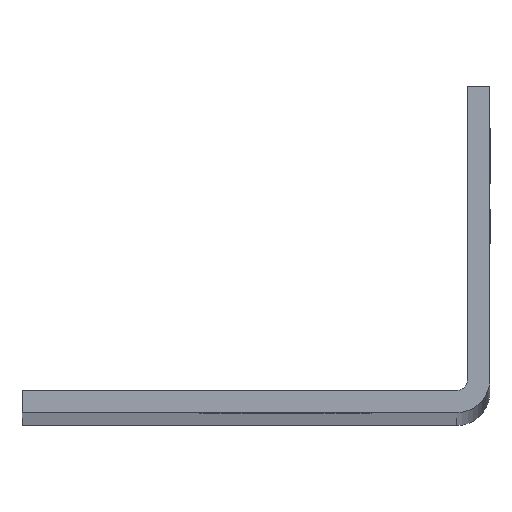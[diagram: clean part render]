
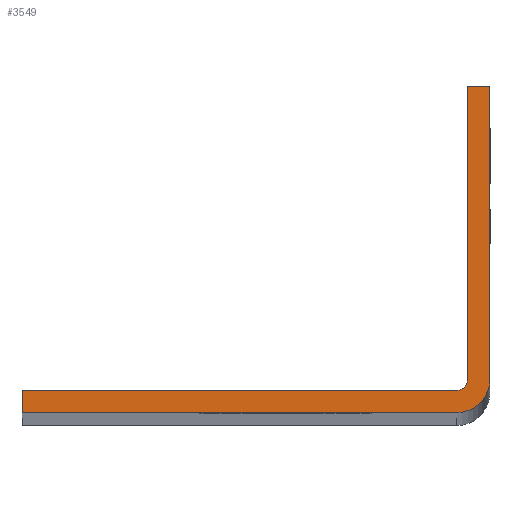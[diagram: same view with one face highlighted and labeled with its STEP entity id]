
A CAD part, top view. The second image highlights one B-rep face of the part: STEP entity #3549.
In plain terms, the highlighted planar face has unit normal (0, 0, 1).
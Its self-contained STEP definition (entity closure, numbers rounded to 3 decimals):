
#230=LINE('',#5405,#454);
#268=LINE('',#5627,#492);
#269=LINE('',#5631,#493);
#270=LINE('',#5633,#494);
#271=LINE('',#5637,#495);
#272=LINE('',#5639,#496);
#454=VECTOR('',#4266,1000.);
#492=VECTOR('',#4352,1000.);
#493=VECTOR('',#4355,1000.);
#494=VECTOR('',#4356,1000.);
#495=VECTOR('',#4359,1000.);
#496=VECTOR('',#4360,1000.);
#853=ORIENTED_EDGE('',*,*,#1824,.F.);
#854=ORIENTED_EDGE('',*,*,#1825,.F.);
#855=ORIENTED_EDGE('',*,*,#1744,.F.);
#856=ORIENTED_EDGE('',*,*,#1826,.T.);
#857=ORIENTED_EDGE('',*,*,#1827,.T.);
#858=ORIENTED_EDGE('',*,*,#1828,.T.);
#859=ORIENTED_EDGE('',*,*,#1829,.T.);
#860=ORIENTED_EDGE('',*,*,#1830,.T.);
#1744=EDGE_CURVE('',#2232,#2229,#230,.T.);
#1824=EDGE_CURVE('',#2307,#2308,#268,.T.);
#1825=EDGE_CURVE('',#2229,#2307,#2571,.T.);
#1826=EDGE_CURVE('',#2232,#2309,#269,.T.);
#1827=EDGE_CURVE('',#2309,#2310,#270,.T.);
#1828=EDGE_CURVE('',#2310,#2311,#2572,.F.);
#1829=EDGE_CURVE('',#2311,#2312,#271,.T.);
#1830=EDGE_CURVE('',#2312,#2308,#272,.T.);
#2229=VERTEX_POINT('',#5399);
#2232=VERTEX_POINT('',#5404);
#2307=VERTEX_POINT('',#5628);
#2308=VERTEX_POINT('',#5629);
#2309=VERTEX_POINT('',#5632);
#2310=VERTEX_POINT('',#5634);
#2311=VERTEX_POINT('',#5636);
#2312=VERTEX_POINT('',#5638);
#2571=CIRCLE('',#3846,3.632);
#2572=CIRCLE('',#3847,1.219);
#2734=EDGE_LOOP('',(#853,#854,#855,#856,#857,#858,#859,#860));
#3126=FACE_BOUND('',#2734,.T.);
#3443=PLANE('',#3845);
#3549=ADVANCED_FACE('',(#3126),#3443,.T.);
#3845=AXIS2_PLACEMENT_3D('',#5626,#4350,#4351);
#3846=AXIS2_PLACEMENT_3D('',#5630,#4353,#4354);
#3847=AXIS2_PLACEMENT_3D('',#5635,#4357,#4358);
#4266=DIRECTION('',(0.,-1.,0.));
#4350=DIRECTION('',(0.,0.,1.));
#4351=DIRECTION('',(1.,0.,0.));
#4352=DIRECTION('',(-1.,0.,0.));
#4353=DIRECTION('',(0.,0.,-1.));
#4354=DIRECTION('',(0.,1.,0.));
#4355=DIRECTION('',(-1.,0.,0.));
#4356=DIRECTION('',(0.,-1.,0.));
#4357=DIRECTION('',(0.,0.,1.));
#4358=DIRECTION('',(1.,0.,0.));
#4359=DIRECTION('',(-1.,0.,0.));
#4360=DIRECTION('',(0.,-1.,0.));
#5399=CARTESIAN_POINT('',(25.4,3.632,400.431));
#5404=CARTESIAN_POINT('',(25.4,35.408,400.431));
#5405=CARTESIAN_POINT('',(25.4,2.171,400.431));
#5626=CARTESIAN_POINT('',(25.4,2.413,400.431));
#5627=CARTESIAN_POINT('',(25.4,0.,400.431));
#5628=CARTESIAN_POINT('',(21.768,0.,400.431));
#5629=CARTESIAN_POINT('',(-25.4,0.,400.431));
#5630=CARTESIAN_POINT('',(21.768,3.632,400.431));
#5631=CARTESIAN_POINT('',(25.4,35.408,400.431));
#5632=CARTESIAN_POINT('',(22.987,35.408,400.431));
#5633=CARTESIAN_POINT('',(22.987,2.171,400.431));
#5634=CARTESIAN_POINT('',(22.987,3.632,400.431));
#5635=CARTESIAN_POINT('',(21.768,3.632,400.431));
#5636=CARTESIAN_POINT('',(21.768,2.413,400.431));
#5637=CARTESIAN_POINT('',(25.4,2.413,400.431));
#5638=CARTESIAN_POINT('',(-25.4,2.413,400.431));
#5639=CARTESIAN_POINT('',(-25.4,2.413,400.431));
